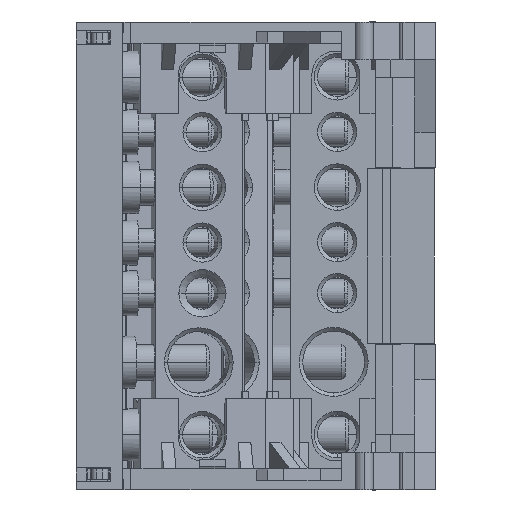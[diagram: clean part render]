
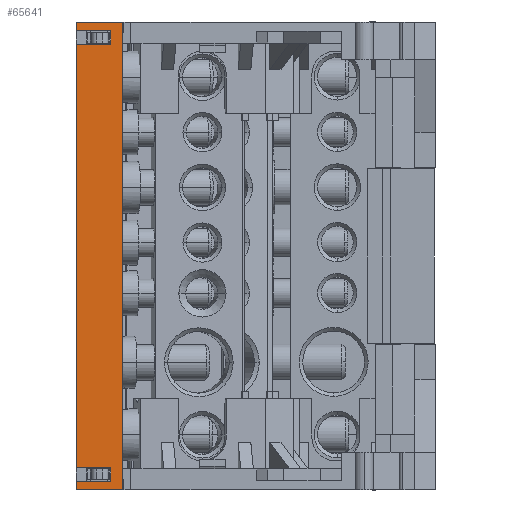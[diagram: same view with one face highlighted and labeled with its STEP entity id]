
A CAD part, left-side view. The second image highlights one B-rep face of the part: STEP entity #65641.
In plain terms, the highlighted planar face has unit normal (-1, 0, 0).
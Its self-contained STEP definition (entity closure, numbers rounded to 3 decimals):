
#867 = CARTESIAN_POINT ( 'NONE',  ( 0., 6.787, -5.15 ) ) ;
#1533 = EDGE_CURVE ( 'NONE', #51757, #77572, #63398, .T. ) ;
#1555 = PLANE ( 'NONE',  #28240 ) ;
#2135 = VERTEX_POINT ( 'NONE', #11077 ) ;
#2343 = CARTESIAN_POINT ( 'NONE',  ( 0., 11.55, -3.3 ) ) ;
#4220 = EDGE_CURVE ( 'NONE', #10754, #77001, #10598, .T. ) ;
#4244 = DIRECTION ( 'NONE',  ( 0., -1., 0. ) ) ;
#5209 = CARTESIAN_POINT ( 'NONE',  ( 0., 5.15, -60.1 ) ) ;
#5678 = ORIENTED_EDGE ( 'NONE', *, *, #55789, .T. ) ;
#8207 = ORIENTED_EDGE ( 'NONE', *, *, #66452, .T. ) ;
#9315 = VERTEX_POINT ( 'NONE', #19637 ) ;
#9860 = VECTOR ( 'NONE', #52927, 1000. ) ;
#10280 = CARTESIAN_POINT ( 'NONE',  ( 0., 5.15, -66.6 ) ) ;
#10598 = LINE ( 'NONE', #28603, #74043 ) ;
#10754 = VERTEX_POINT ( 'NONE', #2343 ) ;
#10919 = CARTESIAN_POINT ( 'NONE',  ( 0., 6.787, -3.3 ) ) ;
#11077 = CARTESIAN_POINT ( 'NONE',  ( 0., 11.55, -5.15 ) ) ;
#12041 = CARTESIAN_POINT ( 'NONE',  ( 0., 6.787, -65.4 ) ) ;
#12158 = CARTESIAN_POINT ( 'NONE',  ( 0., 11.55, -63.55 ) ) ;
#12555 = VECTOR ( 'NONE', #79579, 1000. ) ;
#12651 = EDGE_CURVE ( 'NONE', #77001, #28545, #28042, .T. ) ;
#13619 = ORIENTED_EDGE ( 'NONE', *, *, #1533, .T. ) ;
#16453 = LINE ( 'NONE', #69064, #49086 ) ;
#16614 = CARTESIAN_POINT ( 'NONE',  ( 0., 11.55, -66.6 ) ) ;
#17664 = VERTEX_POINT ( 'NONE', #24579 ) ;
#18375 = CARTESIAN_POINT ( 'NONE',  ( 0., 11.55, -65.4 ) ) ;
#18749 = CARTESIAN_POINT ( 'NONE',  ( 0., 6.787, -63.55 ) ) ;
#19400 = LINE ( 'NONE', #16614, #50059 ) ;
#19637 = CARTESIAN_POINT ( 'NONE',  ( 0., 11.55, -63.55 ) ) ;
#20459 = LINE ( 'NONE', #29814, #59791 ) ;
#20819 = ORIENTED_EDGE ( 'NONE', *, *, #60021, .F. ) ;
#21199 = EDGE_CURVE ( 'NONE', #79518, #72456, #75346, .T. ) ;
#24579 = CARTESIAN_POINT ( 'NONE',  ( 0., 11.55, -2.1 ) ) ;
#25289 = ORIENTED_EDGE ( 'NONE', *, *, #32822, .T. ) ;
#26305 = VECTOR ( 'NONE', #43249, 1000. ) ;
#28042 = LINE ( 'NONE', #34423, #9860 ) ;
#28240 = AXIS2_PLACEMENT_3D ( 'NONE', #32325, #75363, #38498 ) ;
#28545 = VERTEX_POINT ( 'NONE', #867 ) ;
#28603 = CARTESIAN_POINT ( 'NONE',  ( 0., 0.95, -3.3 ) ) ;
#29135 = ORIENTED_EDGE ( 'NONE', *, *, #77674, .T. ) ;
#29814 = CARTESIAN_POINT ( 'NONE',  ( 0., 11.55, -66.6 ) ) ;
#30088 = ORIENTED_EDGE ( 'NONE', *, *, #49159, .T. ) ;
#30874 = CARTESIAN_POINT ( 'NONE',  ( 0., 0.95, -66.6 ) ) ;
#31597 = LINE ( 'NONE', #12158, #60421 ) ;
#32218 = DIRECTION ( 'NONE',  ( 0., 1., 0. ) ) ;
#32325 = CARTESIAN_POINT ( 'NONE',  ( 0., 11.55, -66.6 ) ) ;
#32822 = EDGE_CURVE ( 'NONE', #28545, #2135, #16453, .T. ) ;
#34423 = CARTESIAN_POINT ( 'NONE',  ( 0., 6.787, -66.6 ) ) ;
#35351 = DIRECTION ( 'NONE',  ( 0., 0., -1. ) ) ;
#36208 = ORIENTED_EDGE ( 'NONE', *, *, #12651, .T. ) ;
#38498 = DIRECTION ( 'NONE',  ( 0., 0., 1. ) ) ;
#39018 = LINE ( 'NONE', #72002, #69823 ) ;
#40852 = VECTOR ( 'NONE', #73259, 1000. ) ;
#42697 = DIRECTION ( 'NONE',  ( 0., -1., 0. ) ) ;
#43249 = DIRECTION ( 'NONE',  ( 0., -1., 0. ) ) ;
#46597 = VERTEX_POINT ( 'NONE', #18749 ) ;
#46990 = DIRECTION ( 'NONE',  ( 0., 0., 1. ) ) ;
#47141 = CARTESIAN_POINT ( 'NONE',  ( 0., 11.55, -66.6 ) ) ;
#47876 = ORIENTED_EDGE ( 'NONE', *, *, #4220, .T. ) ;
#48994 = CARTESIAN_POINT ( 'NONE',  ( 0., 11.55, -66.6 ) ) ;
#49086 = VECTOR ( 'NONE', #32218, 1000. ) ;
#49150 = EDGE_CURVE ( 'NONE', #72456, #53545, #61734, .T. ) ;
#49159 = EDGE_CURVE ( 'NONE', #77572, #79518, #20459, .T. ) ;
#49257 = ORIENTED_EDGE ( 'NONE', *, *, #21199, .T. ) ;
#50059 = VECTOR ( 'NONE', #35351, 1000. ) ;
#51757 = VERTEX_POINT ( 'NONE', #12041 ) ;
#51792 = EDGE_CURVE ( 'NONE', #2135, #9315, #73639, .T. ) ;
#52927 = DIRECTION ( 'NONE',  ( 0., 0., -1. ) ) ;
#53545 = VERTEX_POINT ( 'NONE', #62972 ) ;
#55390 = ORIENTED_EDGE ( 'NONE', *, *, #49150, .T. ) ;
#55663 = VECTOR ( 'NONE', #56469, 1000. ) ;
#55789 = EDGE_CURVE ( 'NONE', #46597, #51757, #39018, .T. ) ;
#56092 = FACE_OUTER_BOUND ( 'NONE', #67777, .T. ) ;
#56469 = DIRECTION ( 'NONE',  ( 0., -1., 0. ) ) ;
#57577 = LINE ( 'NONE', #75083, #55663 ) ;
#59791 = VECTOR ( 'NONE', #60413, 1000. ) ;
#60021 = EDGE_CURVE ( 'NONE', #17664, #53545, #57577, .T. ) ;
#60413 = DIRECTION ( 'NONE',  ( 0., 0., -1. ) ) ;
#60421 = VECTOR ( 'NONE', #42697, 1000. ) ;
#61734 = LINE ( 'NONE', #5209, #78076 ) ;
#62972 = CARTESIAN_POINT ( 'NONE',  ( 0., 5.15, -2.1 ) ) ;
#63398 = LINE ( 'NONE', #18375, #12555 ) ;
#65641 = ADVANCED_FACE ( 'NONE', ( #56092 ), #1555, .T. ) ;
#66044 = DIRECTION ( 'NONE',  ( 0., 0., -1. ) ) ;
#66452 = EDGE_CURVE ( 'NONE', #17664, #10754, #19400, .T. ) ;
#66985 = ORIENTED_EDGE ( 'NONE', *, *, #51792, .T. ) ;
#67777 = EDGE_LOOP ( 'NONE', ( #36208, #25289, #66985, #29135, #5678, #13619, #30088, #49257, #55390, #20819, #8207, #47876 ) ) ;
#69064 = CARTESIAN_POINT ( 'NONE',  ( 0., 11.55, -5.15 ) ) ;
#69823 = VECTOR ( 'NONE', #66044, 1000. ) ;
#72002 = CARTESIAN_POINT ( 'NONE',  ( 0., 6.787, -66.6 ) ) ;
#72456 = VERTEX_POINT ( 'NONE', #10280 ) ;
#72598 = CARTESIAN_POINT ( 'NONE',  ( 0., 11.55, -65.4 ) ) ;
#73259 = DIRECTION ( 'NONE',  ( 0., 0., -1. ) ) ;
#73639 = LINE ( 'NONE', #48994, #40852 ) ;
#74043 = VECTOR ( 'NONE', #4244, 1000. ) ;
#75083 = CARTESIAN_POINT ( 'NONE',  ( 0., 0.95, -2.1 ) ) ;
#75346 = LINE ( 'NONE', #30874, #26305 ) ;
#75363 = DIRECTION ( 'NONE',  ( -1., 0., 0. ) ) ;
#77001 = VERTEX_POINT ( 'NONE', #10919 ) ;
#77572 = VERTEX_POINT ( 'NONE', #72598 ) ;
#77674 = EDGE_CURVE ( 'NONE', #9315, #46597, #31597, .T. ) ;
#78076 = VECTOR ( 'NONE', #46990, 1000. ) ;
#79518 = VERTEX_POINT ( 'NONE', #47141 ) ;
#79579 = DIRECTION ( 'NONE',  ( 0., 1., 0. ) ) ;
